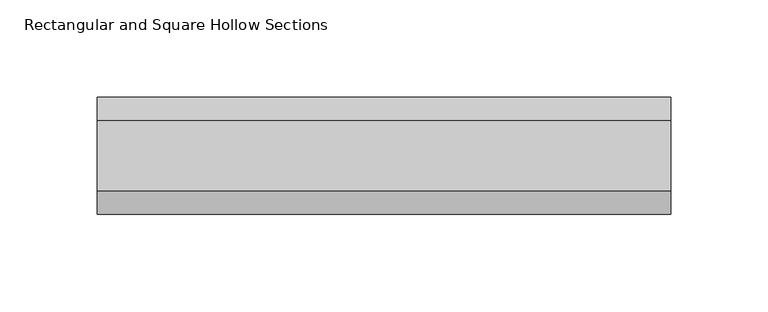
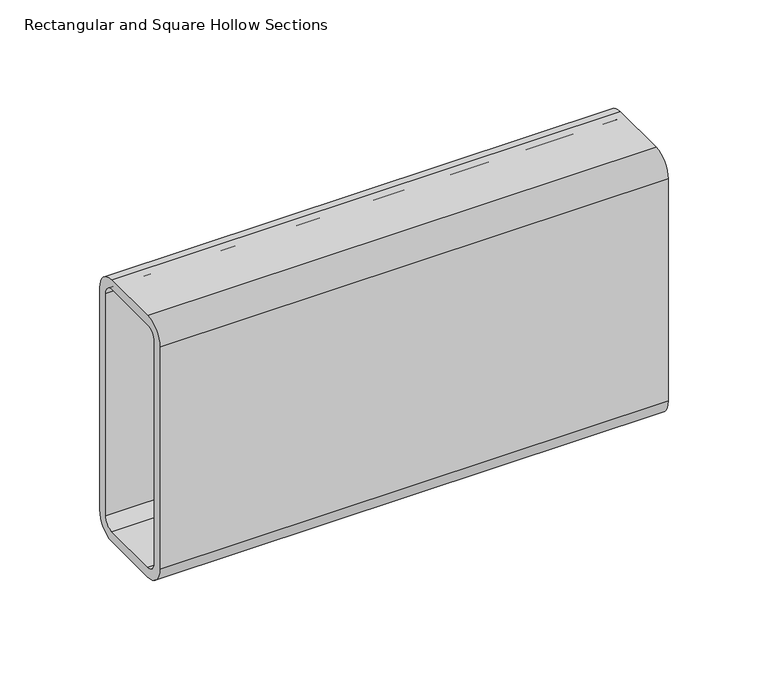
"""IFC4 building model written with IfcOpenShell, lengths in millimetres: beam geometry, Rectangular and Square Hollow Sections : TREC160x60x6."""

from ifc_helpers import new_model, si_unit, point, frame, frame_2d, origin, place, context, project, spatial, polyline, circle_curve, trimmed, segment, composite_curve, outline, extrude, source, transform, mapped, element, save


def rectangular_and_square_hollow_sections_833ee8e0(model_context):
    return source(origin(), model_context, "Body", "SweptSolid", [
        extrude(outline(composite_curve([segment(trimmed(circle_curve(frame_2d((-18.0, 68.0)), 12.0), [point((-30.0, 68.0))], [point((-18.0, 80.0))], False, "CARTESIAN"), True, "CONTINUOUS"), segment(polyline([(-18.0, 80.0), (18.0, 80.0)]), True, "CONTINUOUS"), segment(trimmed(circle_curve(frame_2d((18.0, 68.0)), 12.0), [point((18.0, 80.0))], [point((30.0, 68.0))], False, "CARTESIAN"), True, "CONTINUOUS"), segment(polyline([(30.0, 68.0), (30.0, -68.0)]), True, "CONTINUOUS"), segment(trimmed(circle_curve(frame_2d((18.0, -68.0)), 12.0), [point((30.0, -68.0))], [point((18.0, -80.0))], False, "CARTESIAN"), True, "CONTINUOUS"), segment(polyline([(18.0, -80.0), (-18.0, -80.0)]), True, "CONTINUOUS"), segment(trimmed(circle_curve(frame_2d((-18.0, -68.0)), 12.0), [point((-18.0, -80.0))], [point((-30.0, -68.0))], False, "CARTESIAN"), True, "CONTINUOUS"), segment(polyline([(-30.0, -68.0), (-30.0, 68.0)]), True, "CONTINUOUS")], self_intersect=False), holes=[composite_curve([segment(polyline([(18.0, 74.0), (-18.0, 74.0)]), True, "CONTINUOUS"), segment(trimmed(circle_curve(frame_2d((-18.0, 68.0)), 6.0), [point((-18.0, 74.0))], [point((-24.0, 68.0))], True, "CARTESIAN"), True, "CONTINUOUS"), segment(polyline([(-24.0, 68.0), (-24.0, -68.0)]), True, "CONTINUOUS"), segment(trimmed(circle_curve(frame_2d((-18.0, -68.0)), 6.0), [point((-24.0, -68.0))], [point((-18.0, -74.0))], True, "CARTESIAN"), True, "CONTINUOUS"), segment(polyline([(-18.0, -74.0), (18.0, -74.0)]), True, "CONTINUOUS"), segment(trimmed(circle_curve(frame_2d((18.0, -68.0)), 6.0), [point((18.0, -74.0))], [point((24.0, -68.0))], True, "CARTESIAN"), True, "CONTINUOUS"), segment(polyline([(24.0, -68.0), (24.0, 68.0)]), True, "CONTINUOUS"), segment(trimmed(circle_curve(frame_2d((18.0, 68.0)), 6.0), [point((24.0, 68.0))], [point((18.0, 74.0))], True, "CARTESIAN"), True, "CONTINUOUS")], self_intersect=False)]), frame((-137.5, 0.0, 0.0), z_axis=(1.0, 0.0, 0.0), x_axis=(0.0, 1.0, 0.0)), (0.0, 0.0, 1.0), 294.0),
    ])


if __name__ == "__main__":
    model = new_model("IFC4")
    model_context = context("Model", 3, world=origin())
    ifc_project = project(units=[si_unit("LENGTHUNIT", "METRE", prefix="MILLI")], contexts=[model_context])
    site = spatial("IfcSite", under=ifc_project)
    building = spatial("IfcBuilding", under=site)
    placement = place(None, origin())
    rectangular_and_square_hollow_sections_shape = rectangular_and_square_hollow_sections_833ee8e0(model_context)
    element("IfcBeam", 1, ObjectType="Rectangular and Square Hollow Sections : TREC160x60x6", at=placement, inside=building, context=model_context, shape_type="MappedRepresentation", body=[
        mapped(rectangular_and_square_hollow_sections_shape, transform((0.0, 0.0, 0.0), x_axis=(1.0, 0.0, 0.0), y_axis=(0.0, 1.0, 0.0), z_axis=(0.0, 0.0, 1.0))),
    ])
    save(model, "model.ifc")
